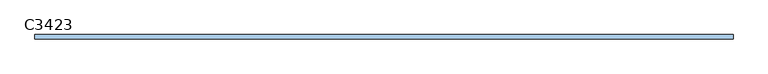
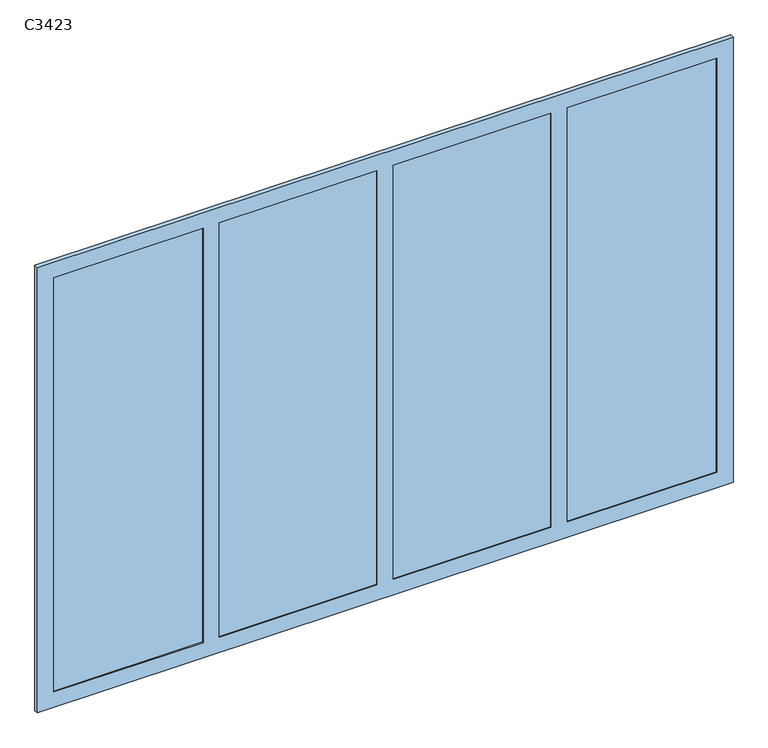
"""IFC4 building model written with IfcOpenShell, lengths in millimetres: window geometry, 窗户 : C3423."""

from ifc_helpers import new_model, si_unit, frame, origin, place, context, project, spatial, polyline, outline, extrude, source, transform, mapped, element, save


def c3423_bdca7cff(model_context):
    return source(origin(), model_context, "Body", "SweptSolid", [
        extrude(outline(polyline([(1620.0, -5.0), (890.0, -5.0), (890.0, 5.0), (1620.0, 5.0), (1620.0, -5.0)])), frame((0.0, 0.0, 880.0), z_axis=(0.0, 0.0, 1.0), x_axis=(1.0, 0.0, 0.0)), (0.0, 0.0, 1.0), 2140.0),
        extrude(outline(polyline([(810.0, -5.0), (40.0, -5.0), (40.0, 5.0), (810.0, 5.0), (810.0, -5.0)])), frame((0.0, 0.0, 880.0), z_axis=(0.0, 0.0, 1.0), x_axis=(1.0, 0.0, 0.0)), (0.0, 0.0, 1.0), 2140.0),
        extrude(outline(polyline([(-40.0, -5.0), (-810.0, -5.0), (-810.0, 5.0), (-40.0, 5.0), (-40.0, -5.0)])), frame((0.0, 0.0, 880.0), z_axis=(0.0, 0.0, 1.0), x_axis=(1.0, 0.0, 0.0)), (0.0, 0.0, 1.0), 2140.0),
        extrude(outline(polyline([(-890.0, -5.0), (-1620.0, -5.0), (-1620.0, 5.0), (-890.0, 5.0), (-890.0, -5.0)])), frame((0.0, 0.0, 880.0), z_axis=(0.0, 0.0, 1.0), x_axis=(1.0, 0.0, 0.0)), (0.0, 0.0, 1.0), 2140.0),
        extrude(outline(polyline([(3100.0, -1700.0), (800.0, -1700.0), (800.0, 1700.0), (3100.0, 1700.0), (3100.0, -1700.0)]), holes=[polyline([(3020.0, 890.0), (3020.0, 1620.0), (880.0, 1620.0), (880.0, 890.0), (3020.0, 890.0)]), polyline([(3020.0, 40.0), (3020.0, 810.0), (880.0, 810.0), (880.0, 40.0), (3020.0, 40.0)]), polyline([(3020.0, -810.0), (3020.0, -40.0), (880.0, -40.0), (880.0, -810.0), (3020.0, -810.0)]), polyline([(3020.0, -1620.0), (3020.0, -890.0), (880.0, -890.0), (880.0, -1620.0), (3020.0, -1620.0)])]), frame((0.0, -10.0, 0.0), z_axis=(0.0, 1.0, 0.0), x_axis=(0.0, 0.0, 1.0)), (0.0, 0.0, 1.0), 20.0),
    ])


if __name__ == "__main__":
    model = new_model("IFC4")
    model_context = context("Model", 3, world=origin())
    ifc_project = project(units=[si_unit("LENGTHUNIT", "METRE", prefix="MILLI")], contexts=[model_context])
    site = spatial("IfcSite", under=ifc_project)
    building = spatial("IfcBuilding", under=site)
    placement = place(None, origin())
    c3423_shape = c3423_bdca7cff(model_context)
    element("IfcWindow", 1, ObjectType="窗户 : C3423", at=placement, inside=building, context=model_context, shape_type="MappedRepresentation", body=[
        mapped(c3423_shape, transform((0.0, 0.0, 0.0), x_axis=(1.0, 0.0, 0.0), y_axis=(0.0, 1.0, 0.0), z_axis=(0.0, 0.0, 1.0))),
    ])
    save(model, "model.ifc")
